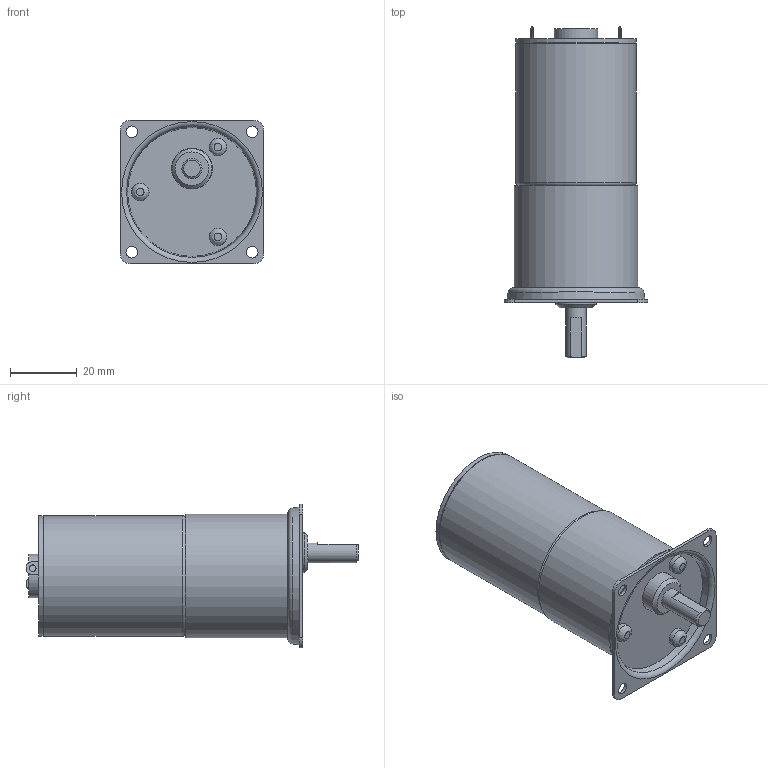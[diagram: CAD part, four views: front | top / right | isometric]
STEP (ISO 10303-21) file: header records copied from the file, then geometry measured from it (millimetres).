
FILE_DESCRIPTION((''),'2;1');
FILE_NAME('C:\Documents and Settings\SSEGAWA\デスクトップ\TP-3644D-PG-6.STP','2013-07-25T17:50:38',('SSEGAWA'),(''),'Autodesk Inventor 2010','Autodesk Inventor 2010','');
FILE_SCHEMA(('CONFIG_CONTROL_DESIGN'));
Length unit declared in the file: millimetre
Products named in the file (1): tp_3644dh_pg-6_Shrinkwrap_1
Bounding box: 43 x 99.3 x 43 mm (x, y, z)
Volume: 80889.5 mm3; surface area: 14983.7 mm2
Topology: 1 solids, 12 shells, 102 faces, 204 edges, 136 vertices
Faces by surface type: plane 46, cylinder 26, bspline 23, cone 4, torus 3
Full cylindrical faces by diameter (mm): 3 x1, 3.5 x1, 4 x3, 5.3 x3, 6 x1, 12 x1, 12.2 x1, 13 x1, 35.6 x1, 36 x2, 37 x1
Entity records: 2762 total; most frequent: CARTESIAN_POINT 828, DIRECTION 385, ORIENTED_EDGE 272, AXIS2_PLACEMENT_3D 171, EDGE_LOOP 169, EDGE_CURVE 136, VERTEX_POINT 113, STYLED_ITEM 103
